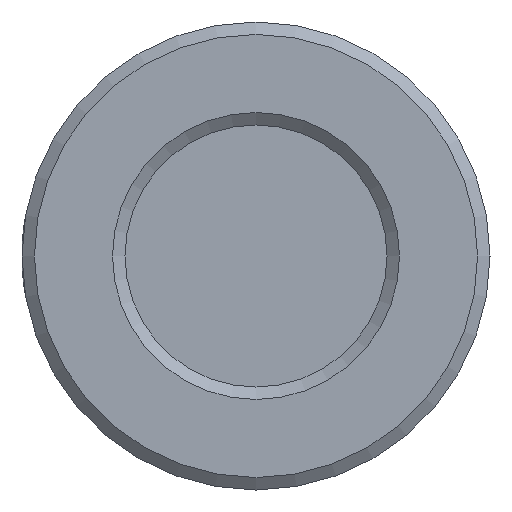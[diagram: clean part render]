
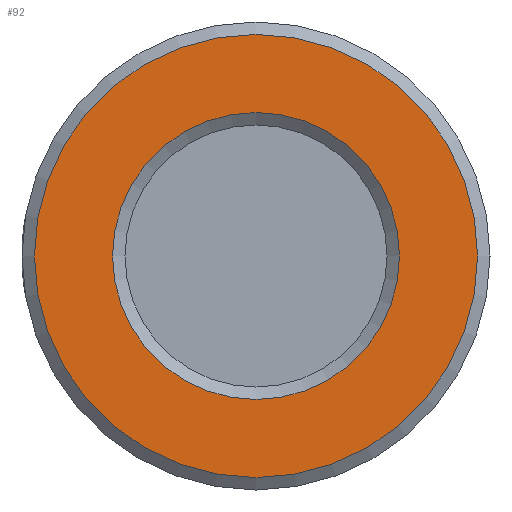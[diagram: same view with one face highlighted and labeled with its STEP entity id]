
A CAD part, left-side view. The second image highlights one B-rep face of the part: STEP entity #92.
In plain terms, the highlighted planar face has unit normal (-1, 0, 0).
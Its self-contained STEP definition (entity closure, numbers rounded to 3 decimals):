
#92=ADVANCED_FACE('',(#1552,#1554),#1556,.T.);
#1552=FACE_BOUND('',#1553,.T.);
#1553=EDGE_LOOP('',(#7721));
#1554=FACE_BOUND('',#1555,.T.);
#1555=EDGE_LOOP('',(#7722));
#1556=PLANE('',#1557);
#1557=AXIS2_PLACEMENT_3D('',#1558,#1559,#1560);
#1558=CARTESIAN_POINT('',(-34.,0.,0.));
#1559=DIRECTION('',(-1.,0.,-0.));
#1560=DIRECTION('',(0.,0.,-1.));
#7721=ORIENTED_EDGE('',*,*,#8638,.T.);
#7722=ORIENTED_EDGE('',*,*,#8639,.T.);
#8638=EDGE_CURVE('',#9105,#9105,#9106,.T.);
#8639=EDGE_CURVE('',#9107,#9107,#9108,.F.);
#9105=VERTEX_POINT('',#10106);
#9106=CIRCLE('',#10107,11.836);
#9107=VERTEX_POINT('',#10111);
#9108=CIRCLE('',#10112,7.664);
#10106=CARTESIAN_POINT('',(-34.,0.,-11.836));
#10107=AXIS2_PLACEMENT_3D('',#10108,#10109,#10110);
#10108=CARTESIAN_POINT('',(-34.,0.,0.));
#10109=DIRECTION('',(-1.,0.,-0.));
#10110=DIRECTION('',(0.,0.,-1.));
#10111=CARTESIAN_POINT('',(-34.,0.,-7.664));
#10112=AXIS2_PLACEMENT_3D('',#10113,#10114,#10115);
#10113=CARTESIAN_POINT('',(-34.,0.,0.));
#10114=DIRECTION('',(-1.,0.,-0.));
#10115=DIRECTION('',(0.,0.,-1.));
